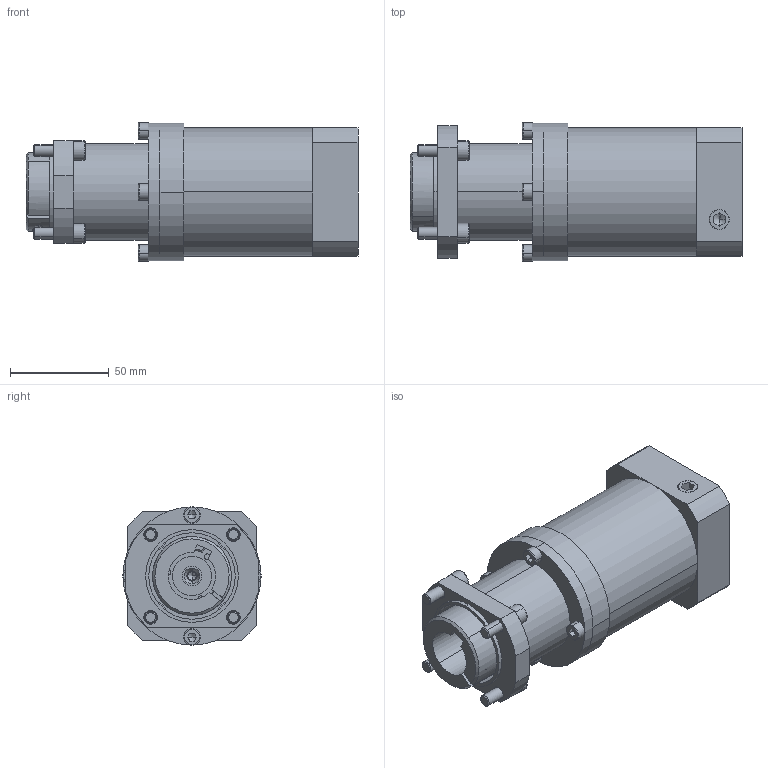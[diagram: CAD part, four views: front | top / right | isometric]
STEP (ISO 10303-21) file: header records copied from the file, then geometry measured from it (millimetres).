
FILE_DESCRIPTION (( 'STEP AP203' ), '1' );
FILE_NAME ('MAF060_5_MKU060_1_MPD065.STEP', '2013-09-30T13:39:33', ( 'Install' ), ( '' ), 'SwSTEP 2.0', 'SolidWorks 2013', '' );
FILE_SCHEMA (( 'CONFIG_CONTROL_DESIGN' ));
Length unit declared in the file: millimetre
Products named in the file (1): MAF060_5_MKU060_1_MPD065
Bounding box: 168.5 x 70.5 x 70.5 mm (x, y, z)
Volume: 439094.1 mm3; surface area: 105990.7 mm2
Topology: 18 solids, 22 shells, 698 faces, 1640 edges, 992 vertices
Faces by surface type: cylinder 291, plane 199, cone 160, torus 48
Entity records: 20506 total; most frequent: CARTESIAN_POINT 4273, DIRECTION 3645, ORIENTED_EDGE 3146, EDGE_CURVE 1573, AXIS2_PLACEMENT_3D 1494, VERTEX_POINT 992, EDGE_LOOP 817, CIRCLE 795
